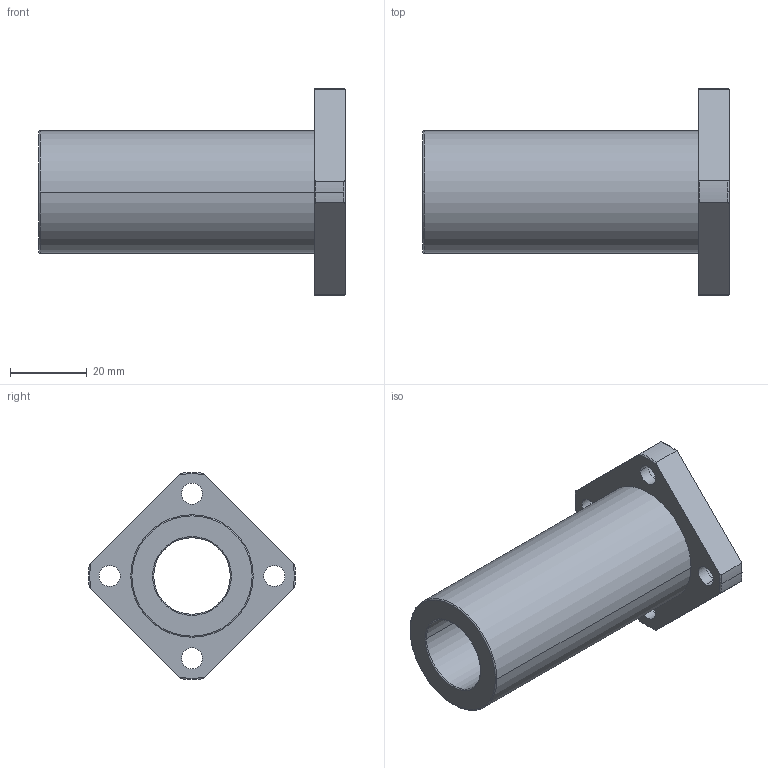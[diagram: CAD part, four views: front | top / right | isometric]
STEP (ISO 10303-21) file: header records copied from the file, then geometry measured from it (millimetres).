
FILE_DESCRIPTION(('FreeCAD Model'),'2;1');
FILE_NAME('Open CASCADE Shape Model','2021-05-03T15:02:47',('Author'),( ''),'Open CASCADE STEP processor 7.5','FreeCAD','Unknown');
FILE_SCHEMA(('AUTOMOTIVE_DESIGN { 1 0 10303 214 1 1 1 1 }'));
Length unit declared in the file: millimetre
Products named in the file (1): linear_lmek20luu
Bounding box: 80 x 54 x 54 mm (x, y, z)
Volume: 45064.8 mm3; surface area: 16924.3 mm2
Topology: 1 solids, 1 shells, 55 faces, 147 edges, 99 vertices
Faces by surface type: cylinder 26, torus 18, plane 11
Entity records: 5445 total; most frequent: CARTESIAN_POINT 2520, DIRECTION 560, ORIENTED_EDGE 294, PCURVE 294, DEFINITIONAL_REPRESENTATION 294, LINE 245, VECTOR 245, AXIS2_PLACEMENT_3D 149
